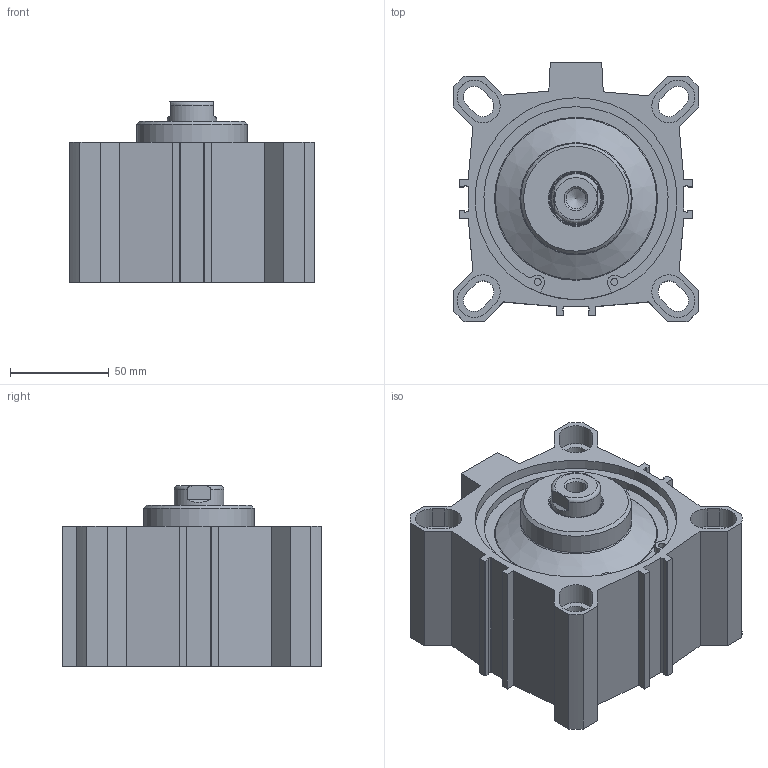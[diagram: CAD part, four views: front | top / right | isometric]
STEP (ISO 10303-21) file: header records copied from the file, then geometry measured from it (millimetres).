
FILE_DESCRIPTION(/* description */ ('Unknown'),/* implementation_level */ '2;1');
FILE_NAME(/* name */ 'FIN 100_15',/* time_stamp */ '2026-05-12T08:46:47+02:00',/* author */ ('Unknown'),/* organization */ ('Unknown'),/* preprocessor_version */ 'ST-DEVELOPER v18.102',/* originating_system */ 'Solid Edge',/* authorisation */ 'Unknown');
FILE_SCHEMA (('AUTOMOTIVE_DESIGN {1 0 10303 214 3 1 1}'));
Length unit declared in the file: millimetre
Products named in the file (5): FIN 100_15; Kolbenstange; Profilrohr; Kit_1; Kit_2
Assembly tree (4 placements, depth 2):
  FIN 100_15
    Kolbenstange
    Profilrohr
    Kit_1
    Kit_2
Bounding box: 124 x 131 x 91.5 mm (x, y, z)
Volume: 702978 mm3; surface area: 170561 mm2
Topology: 4 solids, 4 shells, 259 faces, 651 edges, 422 vertices
Faces by surface type: plane 130, cylinder 94, cone 24, torus 11
Full cylindrical faces by diameter (mm): 3.5 x4, 5.25 x2, 10.106 x2, 11.445 x4, 25 x1, 25.6 x1, 26.9 x1, 28 x1, 29.8 x1, 30 x1, 56 x1, 80 x1, 100 x2, 101.7 x4, 102.2 x2, 106.2 x2
Entity records: 9415 total; most frequent: CARTESIAN_POINT 1411, DIRECTION 1312, ORIENTED_EDGE 1150, EDGE_CURVE 575, AXIS2_PLACEMENT_3D 485, VERTEX_POINT 410, FACE_BOUND 361, EDGE_LOOP 360
